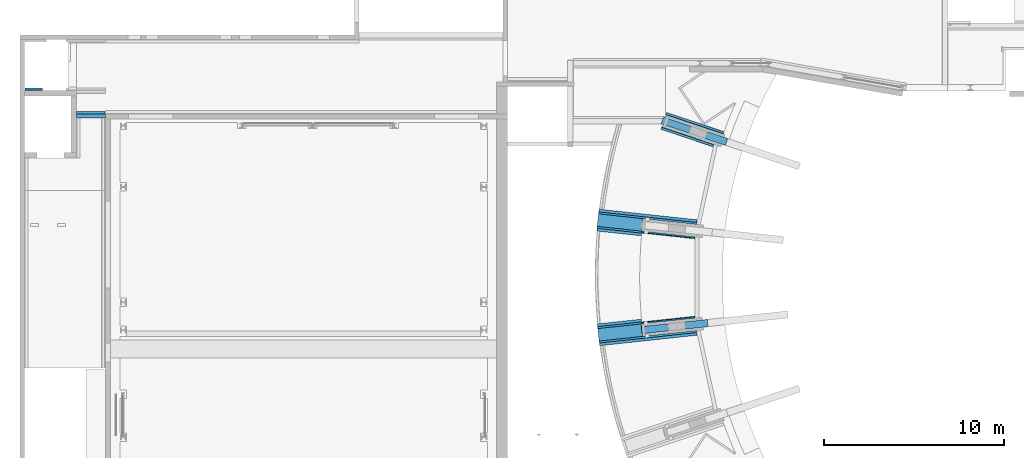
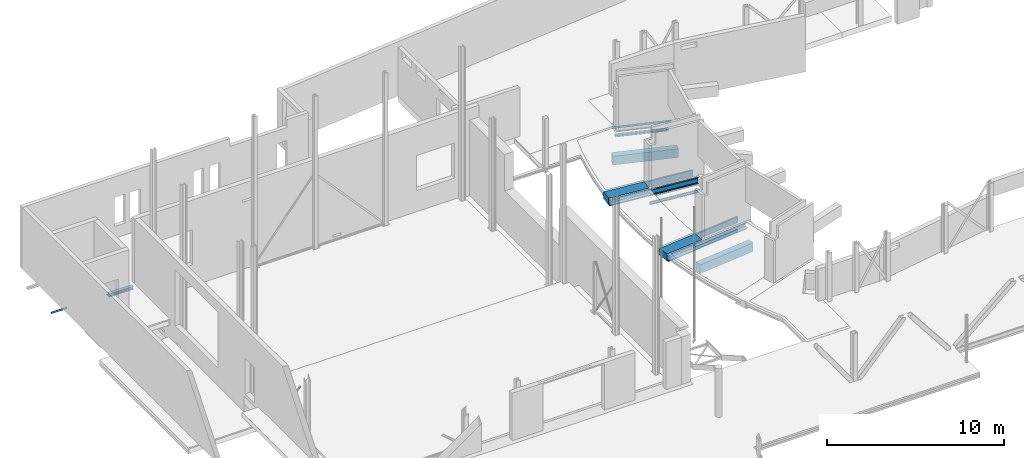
# One storey, part 17 of 37: 14 beams.
"""IFC2X3 building model written with IfcOpenShell, lengths in millimetres."""

from ifc_helpers import new_model, entity, si_unit, converted_unit, derived_unit, direction, frame, frame_2d, origin, origin_2d_with_axis, place, context, subcontext, project, spatial, polyline, circle_curve, parameter, trimmed, segment, composite_curve, rectangle, outline, extrude, source, transform, mapped, material, material_list, type_object, type_shapes, element, save


model = new_model("IFC2X3")

# Units and contexts
model_context = context("Model", 3, precision=0.01, world=origin(), true_north=direction((6.12303176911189e-17, 1.0)))
body_context = subcontext(model_context, "Body", "Model", "MODEL_VIEW")
ifc_project = project(units=[si_unit("LENGTHUNIT", "METRE", prefix="MILLI"), si_unit("AREAUNIT", "SQUARE_METRE", prefix="MILLI"), si_unit("VOLUMEUNIT", "CUBIC_METRE"), converted_unit("PLANEANGLEUNIT", "DEGREE", entity("IfcRatioMeasure", 0.0174532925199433), si_unit("PLANEANGLEUNIT", "RADIAN"), dimensions=[0, 0, 0, 0, 0, 0, 0]), si_unit("MASSUNIT", "GRAM", prefix="KILO"), derived_unit("MASSDENSITYUNIT", [(si_unit("MASSUNIT", "GRAM", prefix="KILO"), 1), (si_unit("LENGTHUNIT", "METRE"), -3)]), derived_unit("MOMENTOFINERTIAUNIT", [(si_unit("LENGTHUNIT", "METRE"), 4)]), si_unit("TIMEUNIT", "SECOND"), si_unit("FREQUENCYUNIT", "HERTZ"), si_unit("THERMODYNAMICTEMPERATUREUNIT", "DEGREE_CELSIUS"), derived_unit("THERMALTRANSMITTANCEUNIT", [(si_unit("MASSUNIT", "GRAM", prefix="KILO"), 1), (si_unit("THERMODYNAMICTEMPERATUREUNIT", "KELVIN"), -1), (si_unit("TIMEUNIT", "SECOND"), -3)]), derived_unit("VOLUMETRICFLOWRATEUNIT", [(si_unit("LENGTHUNIT", "METRE"), 3), (si_unit("TIMEUNIT", "SECOND"), -1)]), si_unit("ELECTRICCURRENTUNIT", "AMPERE"), si_unit("ELECTRICVOLTAGEUNIT", "VOLT"), si_unit("POWERUNIT", "WATT"), si_unit("FORCEUNIT", "NEWTON", prefix="KILO"), si_unit("ILLUMINANCEUNIT", "LUX"), si_unit("LUMINOUSFLUXUNIT", "LUMEN"), si_unit("LUMINOUSINTENSITYUNIT", "CANDELA"), derived_unit("USERDEFINED", [(si_unit("MASSUNIT", "GRAM", prefix="KILO"), -1), (si_unit("LENGTHUNIT", "METRE"), -2), (si_unit("TIMEUNIT", "SECOND"), 3), (si_unit("LUMINOUSFLUXUNIT", "LUMEN"), 1)]), derived_unit("LINEARVELOCITYUNIT", [(si_unit("LENGTHUNIT", "METRE"), 1), (si_unit("TIMEUNIT", "SECOND"), -1)]), si_unit("PRESSUREUNIT", "PASCAL"), derived_unit("USERDEFINED", [(si_unit("LENGTHUNIT", "METRE"), -2), (si_unit("MASSUNIT", "GRAM", prefix="KILO"), 1), (si_unit("TIMEUNIT", "SECOND"), -2)]), derived_unit("LINEARFORCEUNIT", [(si_unit("MASSUNIT", "GRAM", prefix="KILO"), 1), (si_unit("LENGTHUNIT", "METRE"), 1), (si_unit("TIMEUNIT", "SECOND"), -2), (si_unit("LENGTHUNIT", "METRE"), -1)]), derived_unit("PLANARFORCEUNIT", [(si_unit("MASSUNIT", "GRAM", prefix="KILO"), 1), (si_unit("LENGTHUNIT", "METRE"), 1), (si_unit("TIMEUNIT", "SECOND"), -2), (si_unit("LENGTHUNIT", "METRE"), -2)])], contexts=[model_context])

# Site, building, storey
site_placement = place(None, origin())
site = spatial("IfcSite", under=ifc_project, at=site_placement, Name="Theater aan de Parade", CompositionType="ELEMENT")
building_placement = place(site_placement, origin())
building = spatial("IfcBuilding", under=site, at=building_placement, Name="Theater aan de Parade", CompositionType="ELEMENT")
storey_placement = place(building_placement, frame((0.0, 0.0, 5020.0)))
storey = spatial("IfcBuildingStorey", under=building, at=storey_placement, Name="01 eerste verdieping", CompositionType="ELEMENT", Elevation=5020.0)

# Beams
ifc_material_1 = material(Name="00_PBT_MAT_beton t.p.g.")
beam_type_1 = type_object("IfcBeamType", Name="28_PBT_SF_betonbalk:400x800_bestaand", PredefinedType="NOTDEFINED")
beam_1_placement = place(storey_placement, frame((46085.6442524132, 41206.5055675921, 1000.0), z_axis=(0.0, 0.0, 1.0), x_axis=(0.948323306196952, -0.317305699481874, 0.0)))
element("IfcBeam", 1, at=beam_1_placement, inside=storey, type_object=beam_type_1, material=ifc_material_1, Name="28_PBT_SF_betonbalk:400x800_bestaand", ObjectType="28_PBT_SF_betonbalk:400x800_bestaand", context=body_context, shape_type="SweptSolid", body=[
    extrude(rectangle(XDim=600.000000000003, YDim=400.000000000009, at=frame_2d((2.8421709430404e-13, -4.10693701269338e-12), x_axis=(1.0, 0.0))), frame((0.0, 0.0, -3210.0), z_axis=(1.0, 0.0, 0.0), x_axis=(0.0, 0.0, -1.0)), (0.0, 0.0, 1.0), 3773.36802330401),
])
beam_2_placement = place(storey_placement, frame((44932.0334701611, 29521.8775051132, 1000.0), z_axis=(0.0, 0.0, 1.0), x_axis=(0.994276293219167, 0.106839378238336, 0.0)))
element("IfcBeam", 2, at=beam_2_placement, inside=storey, type_object=beam_type_1, material=ifc_material_1, Name="28_PBT_SF_betonbalk:400x800_bestaand", ObjectType="28_PBT_SF_betonbalk:400x800_bestaand", context=body_context, shape_type="SweptSolid", body=[
    extrude(rectangle(XDim=600.000000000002, YDim=400.000000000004, at=frame_2d((-2.55795384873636e-13, -2.1458390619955e-12), x_axis=(1.0, 0.0))), frame((0.0, 0.0, -3210.0), z_axis=(1.0, 0.0, 0.0), x_axis=(0.0, 0.0, -1.0)), (0.0, 0.0, 1.0), 3698.36802330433),
])
ifc_material_2 = material(Name="00_PBT_MAT_staal_S355")
beam_type_2 = type_object("IfcBeamType", Name="28_PBT_SF_staal_UNP-profiel_met_ingelaste_strip (void):S355_UNP400 + ingelaste strip_d=15", PredefinedType="BEAM", material=ifc_material_2)
shared_shape_1 = source(origin(), body_context, "Body", "SweptSolid", [
    extrude(outline(composite_curve([segment(polyline([(-200.0, -61.1666666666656), (200.0, -61.1666666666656)]), True, "CONTINUOUS"), segment(polyline([(200.0, -61.1666666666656), (200.0, 48.8333333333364)]), True, "CONTINUOUS"), segment(polyline([(200.0, 48.8333333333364), (191.0, 48.8333333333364)]), True, "CONTINUOUS"), segment(trimmed(circle_curve(frame_2d((191.0, 39.8333333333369), x_axis=(0.0, 1.0)), 8.99999999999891), [parameter(0.0)], [parameter(90.000000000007)], True, "PARAMETER"), True, "CONTINUOUS"), segment(polyline([(182.0, 39.8333333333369), (182.0, -29.1666666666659)]), True, "CONTINUOUS"), segment(trimmed(circle_curve(frame_2d((164.0, -29.1666666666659), x_axis=(1.0, 0.0)), 17.9999999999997), [parameter(269.999999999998)], [parameter(0.0)], True, "PARAMETER"), False, "CONTINUOUS"), segment(polyline([(164.0, -47.1666666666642), (-164.0, -47.1666666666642)]), True, "CONTINUOUS"), segment(trimmed(circle_curve(frame_2d((-164.0, -29.1666666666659), x_axis=(0.0, -1.0)), 17.9999999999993), [parameter(269.999999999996)], [parameter(0.0)], True, "PARAMETER"), False, "CONTINUOUS"), segment(polyline([(-182.0, -29.1666666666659), (-182.0, 39.8333333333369)]), True, "CONTINUOUS"), segment(trimmed(circle_curve(frame_2d((-191.0, 39.8333333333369), x_axis=(1.0, 0.0)), 8.9999999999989), [parameter(0.0)], [parameter(90.000000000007)], True, "PARAMETER"), True, "CONTINUOUS"), segment(polyline([(-191.0, 48.8333333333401), (-200.0, 48.8333333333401)]), True, "CONTINUOUS"), segment(polyline([(-200.0, 48.8333333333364), (-200.0, -61.1666666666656)]), True, "CONTINUOUS")], self_intersect=False)), frame((42570.2844427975, 28854.563531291, 4665.0), z_axis=(0.994276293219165, 0.106839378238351, 0.0), x_axis=(0.0, 0.0, 1.0)), (0.0, 0.0, 1.0), 5460.14331162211),
    extrude(rectangle(XDim=14.9999999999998, YDim=246.000000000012, at=frame_2d((0.0, -4.77484718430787e-12), x_axis=(1.0, 0.0))), frame((42578.3864289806, 28779.1642457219, 4632.5), z_axis=(0.994276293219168, 0.106839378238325, 0.0), x_axis=(0.0, 0.0, 1.0)), (0.0, 0.0, 1.0), 5460.14331162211),
])
type_shapes(beam_type_2, [shared_shape_1])
beam_3_placement = place(storey_placement, frame((0.0, 0.0, -5020.0)))
element("IfcBeam", 3, at=beam_3_placement, inside=storey, type_object=beam_type_2, material=ifc_material_2, Name="28_PBT_SF_staal_UNP-profiel_met_ingelaste_strip (void):S355_UNP400 + ingelaste strip_d=15", ObjectType="28_PBT_SF_staal_UNP-profiel_met_ingelaste_strip (void):S355_UNP400 + ingelaste strip_d=15", context=body_context, shape_type="MappedRepresentation", body=[
    mapped(shared_shape_1, transform((0.0, 0.0, 0.0), scale=1.0)),
])
beam_type_3 = type_object("IfcBeamType", Name="28_PBT_SF_staal_UNP-profiel_met_ingelaste_strip (void):S355_UNP400 + ingelaste strip_d=15", PredefinedType="BEAM", material=ifc_material_2)
shared_shape_2 = source(origin(), body_context, "Body", "SweptSolid", [
    extrude(outline(composite_curve([segment(polyline([(-200.0, -48.8333333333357), (-191.0, -48.8333333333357)]), True, "CONTINUOUS"), segment(trimmed(circle_curve(frame_2d((-191.0, -39.8333333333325), x_axis=(0.0, -1.0)), 8.9999999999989), [parameter(0.0)], [parameter(90.000000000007)], True, "PARAMETER"), True, "CONTINUOUS"), segment(polyline([(-182.0, -39.8333333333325), (-182.0, 29.1666666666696)]), True, "CONTINUOUS"), segment(trimmed(circle_curve(frame_2d((-164.0, 29.1666666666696), x_axis=(-1.0, 0.0)), 17.9999999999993), [parameter(269.999999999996)], [parameter(0.0)], True, "PARAMETER"), False, "CONTINUOUS"), segment(polyline([(-164.0, 47.1666666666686), (164.0, 47.1666666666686)]), True, "CONTINUOUS"), segment(trimmed(circle_curve(frame_2d((164.0, 29.1666666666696), x_axis=(0.0, 1.0)), 17.9999999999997), [parameter(269.999999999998)], [parameter(0.0)], True, "PARAMETER"), False, "CONTINUOUS"), segment(polyline([(182.0, 29.1666666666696), (182.0, -39.8333333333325)]), True, "CONTINUOUS"), segment(trimmed(circle_curve(frame_2d((191.0, -39.8333333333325), x_axis=(-1.0, 0.0)), 8.9999999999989), [parameter(0.0)], [parameter(90.000000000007)], True, "PARAMETER"), True, "CONTINUOUS"), segment(polyline([(191.0, -48.833333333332), (200.0, -48.833333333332)]), True, "CONTINUOUS"), segment(polyline([(200.0, -48.833333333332), (200.0, 61.16666666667)]), True, "CONTINUOUS"), segment(polyline([(200.0, 61.16666666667), (-200.0, 61.16666666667)]), True, "CONTINUOUS"), segment(polyline([(-200.0, 61.16666666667), (-200.0, -48.833333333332)]), True, "CONTINUOUS")], self_intersect=False)), frame((42479.6135848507, 29671.887770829, 4665.0), z_axis=(0.994276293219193, 0.106839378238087, 0.0), x_axis=(0.0, 0.0, 1.0)), (0.0, 0.0, 1.0), 5466.83184354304),
    extrude(rectangle(XDim=14.9999999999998, YDim=246.000000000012, at=frame_2d((0.0, 4.68958205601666e-13), x_axis=(1.0, 0.0))), frame((42471.5115986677, 29747.2870563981, 4632.5), z_axis=(0.994276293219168, 0.106839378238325, 0.0), x_axis=(0.0, 0.0, 1.0)), (0.0, 0.0, 1.0), 2466.83184354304),
])
type_shapes(beam_type_3, [shared_shape_2])
beam_4_placement = place(storey_placement, frame((0.0, 0.0, -5020.0)))
element("IfcBeam", 4, at=beam_4_placement, inside=storey, type_object=beam_type_3, material=ifc_material_2, Name="28_PBT_SF_staal_UNP-profiel_met_ingelaste_strip (void):S355_UNP400 + ingelaste strip_d=15", ObjectType="28_PBT_SF_staal_UNP-profiel_met_ingelaste_strip (void):S355_UNP400 + ingelaste strip_d=15", context=body_context, shape_type="MappedRepresentation", body=[
    mapped(shared_shape_2, transform((0.0, 0.0, 0.0), scale=1.0)),
])
beam_type_4 = type_object("IfcBeamType", Name="28_PBT_SF_staal_UNP-profiel_met_ingelaste_strip (void):S355_UNP400 + ingelaste strip_d=15", PredefinedType="BEAM", material=ifc_material_2)
shared_shape_3 = source(origin(), body_context, "Body", "SweptSolid", [
    extrude(outline(composite_curve([segment(polyline([(191.0, -48.8333333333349), (200.0, -48.8333333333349)]), True, "CONTINUOUS"), segment(polyline([(200.0, -48.8333333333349), (200.0, 61.1666666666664)]), True, "CONTINUOUS"), segment(polyline([(200.0, 61.1666666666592), (-200.0, 61.1666666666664)]), True, "CONTINUOUS"), segment(polyline([(-200.0, 61.1666666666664), (-200.0, -48.8333333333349)]), True, "CONTINUOUS"), segment(polyline([(-200.0, -48.8333333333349), (-191.0, -48.8333333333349)]), True, "CONTINUOUS"), segment(trimmed(circle_curve(frame_2d((-191.0, -39.8333333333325), x_axis=(0.0, -1.0)), 8.99999999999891), [parameter(0.0)], [parameter(90.000000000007)], True, "PARAMETER"), True, "CONTINUOUS"), segment(polyline([(-182.0, -39.8333333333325), (-182.0, 29.1666666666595)]), True, "CONTINUOUS"), segment(trimmed(circle_curve(frame_2d((-164.0, 29.1666666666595), x_axis=(-1.0, 0.0)), 17.9999999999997), [parameter(269.999999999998)], [parameter(0.0)], True, "PARAMETER"), False, "CONTINUOUS"), segment(polyline([(-164.0, 47.1666666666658), (164.0, 47.1666666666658)]), True, "CONTINUOUS"), segment(trimmed(circle_curve(frame_2d((164.0, 29.1666666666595), x_axis=(0.0, 1.0)), 17.9999999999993), [parameter(269.999999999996)], [parameter(0.0)], True, "PARAMETER"), False, "CONTINUOUS"), segment(polyline([(182.0, 29.1666666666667), (182.0, -39.8333333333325)]), True, "CONTINUOUS"), segment(trimmed(circle_curve(frame_2d((191.0, -39.8333333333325), x_axis=(-1.0, 0.0)), 8.9999999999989), [parameter(0.0)], [parameter(90.000000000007)], True, "PARAMETER"), True, "CONTINUOUS")], self_intersect=False)), frame((42451.1654944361, 35244.3351680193, 4665.0), z_axis=(0.994276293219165, -0.106839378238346, 0.0), x_axis=(0.0, 0.0, -1.0)), (0.0, 0.0, 1.0), 5495.44369983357),
    extrude(rectangle(XDim=14.9999999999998, YDim=246.000000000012, at=frame_2d((0.0, -8.61177795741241e-12), x_axis=(1.0, 0.0))), frame((42443.063508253, 35168.9358824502, 4632.5), z_axis=(0.994276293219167, -0.106839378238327, 0.0), x_axis=(0.0, 0.0, -1.0)), (0.0, 0.0, 1.0), 2495.44369983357),
])
type_shapes(beam_type_4, [shared_shape_3])
beam_5_placement = place(storey_placement, frame((0.0, 0.0, -5020.0)))
element("IfcBeam", 5, at=beam_5_placement, inside=storey, type_object=beam_type_4, material=ifc_material_2, Name="28_PBT_SF_staal_UNP-profiel_met_ingelaste_strip (void):S355_UNP400 + ingelaste strip_d=15", ObjectType="28_PBT_SF_staal_UNP-profiel_met_ingelaste_strip (void):S355_UNP400 + ingelaste strip_d=15", context=body_context, shape_type="MappedRepresentation", body=[
    mapped(shared_shape_3, transform((0.0, 0.0, 0.0), scale=1.0)),
])
beam_type_5 = type_object("IfcBeamType", Name="28_PBT_SF_staal_UNP-profiel_met_ingelaste_strip (void):S355_UNP400 + ingelaste strip_d=15", PredefinedType="BEAM", material=ifc_material_2)
shared_shape_4 = source(origin(), body_context, "Body", "SweptSolid", [
    extrude(outline(composite_curve([segment(polyline([(-200.0, -61.1666666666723), (200.0, -61.1666666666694)]), True, "CONTINUOUS"), segment(polyline([(200.0, -61.1666666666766), (200.0, 48.8333333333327)]), True, "CONTINUOUS"), segment(polyline([(200.0, 48.8333333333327), (191.0, 48.8333333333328)]), True, "CONTINUOUS"), segment(trimmed(circle_curve(frame_2d((191.0, 39.8333333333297), x_axis=(0.0, 1.0)), 8.9999999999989), [parameter(0.0)], [parameter(90.000000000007)], True, "PARAMETER"), True, "CONTINUOUS"), segment(polyline([(182.0, 39.8333333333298), (182.0, -29.1666666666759)]), True, "CONTINUOUS"), segment(trimmed(circle_curve(frame_2d((164.0, -29.1666666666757), x_axis=(1.0, 0.0)), 17.9999999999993), [parameter(269.999999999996)], [parameter(0.0)], True, "PARAMETER"), False, "CONTINUOUS"), segment(polyline([(164.0, -47.1666666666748), (-164.0, -47.1666666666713)]), True, "CONTINUOUS"), segment(trimmed(circle_curve(frame_2d((-164.0, -29.1666666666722), x_axis=(0.0, -1.0)), 17.9999999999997), [parameter(269.999999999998)], [parameter(0.0)], True, "PARAMETER"), False, "CONTINUOUS"), segment(polyline([(-182.0, -29.166666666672), (-182.0, 39.8333333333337)]), True, "CONTINUOUS"), segment(trimmed(circle_curve(frame_2d((-191.0, 39.8333333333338), x_axis=(1.0, 0.0)), 8.99999999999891), [parameter(0.0)], [parameter(90.000000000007)], True, "PARAMETER"), True, "CONTINUOUS"), segment(polyline([(-191.0, 48.8333333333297), (-200.0, 48.833333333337)]), True, "CONTINUOUS"), segment(polyline([(-200.0, 48.8333333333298), (-200.0, -61.1666666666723)]), True, "CONTINUOUS")], self_intersect=False)), frame((42537.5730233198, 36062.1175210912, 4665.0), z_axis=(0.994276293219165, -0.106839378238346, 0.0), x_axis=(0.0, 0.0, -1.0)), (0.0, 0.0, 1.0), 5497.98068978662),
    extrude(rectangle(XDim=14.9999999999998, YDim=246.000000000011, at=frame_2d((0.0, 2.62900812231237e-12), x_axis=(1.0, 0.0))), frame((42545.6750095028, 36137.5168066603, 4632.5), z_axis=(0.994276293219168, -0.106839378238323, 0.0), x_axis=(0.0, 0.0, -1.0)), (0.0, 0.0, 1.0), 5497.98068978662),
])
type_shapes(beam_type_5, [shared_shape_4])
beam_6_placement = place(storey_placement, frame((0.0, 0.0, -5020.0)))
element("IfcBeam", 6, at=beam_6_placement, inside=storey, type_object=beam_type_5, material=ifc_material_2, Name="28_PBT_SF_staal_UNP-profiel_met_ingelaste_strip (void):S355_UNP400 + ingelaste strip_d=15", ObjectType="28_PBT_SF_staal_UNP-profiel_met_ingelaste_strip (void):S355_UNP400 + ingelaste strip_d=15", context=body_context, shape_type="MappedRepresentation", body=[
    mapped(shared_shape_4, transform((0.0, 0.0, 0.0), scale=1.0)),
])
beam_type_6 = type_object("IfcBeamType", Name="28_PBT_SF_staal_L-profiel:S355_L150x150x15", PredefinedType="NOTDEFINED")
beam_7_placement = place(storey_placement, frame((46032.2260133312, 40810.4907424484, 0.0), z_axis=(0.0, 0.0, 1.0), x_axis=(0.948323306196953, -0.317305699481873, 0.0)))
element("IfcBeam", 7, at=beam_7_placement, inside=storey, type_object=beam_type_6, material=ifc_material_2, Name="28_PBT_SF_staal_L-profiel:S355_L150x150x15", ObjectType="28_PBT_SF_staal_L-profiel:S355_L150x150x15", context=body_context, shape_type="SweptSolid", body=[
    extrude(outline(composite_curve([segment(polyline([(49.6666666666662, -93.3333333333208), (56.6666666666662, -93.3333333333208)]), True, "CONTINUOUS"), segment(polyline([(56.6666666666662, -93.3333333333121), (56.6666666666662, 56.6666666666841)]), True, "CONTINUOUS"), segment(polyline([(56.6666666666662, 56.6666666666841), (-93.3333333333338, 56.6666666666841)]), True, "CONTINUOUS"), segment(polyline([(-93.3333333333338, 56.6666666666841), (-93.3333333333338, 49.666666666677)]), True, "CONTINUOUS"), segment(trimmed(circle_curve(frame_2d((-85.333333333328, 49.666666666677), x_axis=(-1.0, 0.0)), 8.00000000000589), [parameter(0.0)], [parameter(89.9999999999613)], True, "PARAMETER"), True, "CONTINUOUS"), segment(polyline([(-85.3333333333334, 41.6666666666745), (25.6666666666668, 41.6666666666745)]), True, "CONTINUOUS"), segment(trimmed(circle_curve(frame_2d((25.6666666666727, 25.6666666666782), x_axis=(0.0, 1.0)), 15.9999999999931), [parameter(269.999999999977)], [parameter(0.0)], True, "PARAMETER"), False, "CONTINUOUS"), segment(polyline([(41.6666666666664, 25.6666666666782), (41.6666666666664, -85.3333333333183)]), True, "CONTINUOUS"), segment(trimmed(circle_curve(frame_2d((49.6666666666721, -85.3333333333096), x_axis=(-1.0, 0.0)), 8.00000000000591), [parameter(0.0)], [parameter(89.9999999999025)], True, "PARAMETER"), True, "CONTINUOUS")], self_intersect=False)), frame((0.0, -14.1666666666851, -338.333333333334), z_axis=(1.0, 0.0, 0.0), x_axis=(0.0, 0.0, -1.0)), (0.0, 0.0, 1.0), 3079.13069914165),
])
beam_8_placement = place(storey_placement, frame((46281.3109874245, 41554.924537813, 0.0), z_axis=(0.0, 0.0, 1.0), x_axis=(0.948323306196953, -0.317305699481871, 0.0)))
element("IfcBeam", 8, at=beam_8_placement, inside=storey, type_object=beam_type_6, material=ifc_material_2, Name="28_PBT_SF_staal_L-profiel:S355_L150x150x15", ObjectType="28_PBT_SF_staal_L-profiel:S355_L150x150x15", context=body_context, shape_type="SweptSolid", body=[
    extrude(outline(composite_curve([segment(polyline([(-93.3333333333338, -56.6666666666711), (56.6666666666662, -56.6666666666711)]), True, "CONTINUOUS"), segment(polyline([(56.6666666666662, -56.6666666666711), (56.6666666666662, 93.3333333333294)]), True, "CONTINUOUS"), segment(polyline([(56.6666666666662, 93.3333333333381), (49.6666666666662, 93.3333333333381)]), True, "CONTINUOUS"), segment(trimmed(circle_curve(frame_2d((49.6666666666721, 85.3333333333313), x_axis=(0.0, 1.0)), 8.00000000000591), [parameter(0.0)], [parameter(89.9999999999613)], True, "PARAMETER"), True, "CONTINUOUS"), segment(polyline([(41.6666666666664, 85.3333333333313), (41.6666666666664, -25.6666666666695)]), True, "CONTINUOUS"), segment(trimmed(circle_curve(frame_2d((25.6666666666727, -25.6666666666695), x_axis=(1.0, 0.0)), 15.9999999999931), [parameter(269.999999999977)], [parameter(0.0)], True, "PARAMETER"), False, "CONTINUOUS"), segment(polyline([(25.6666666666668, -41.6666666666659), (-85.3333333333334, -41.6666666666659)]), True, "CONTINUOUS"), segment(trimmed(circle_curve(frame_2d((-85.333333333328, -49.666666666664), x_axis=(0.0, 1.0)), 8.00000000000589), [parameter(0.0)], [parameter(89.9999999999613)], True, "PARAMETER"), True, "CONTINUOUS"), segment(polyline([(-93.3333333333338, -49.666666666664), (-93.3333333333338, -56.6666666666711)]), True, "CONTINUOUS")], self_intersect=False)), frame((0.0, 14.1666666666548, -338.333333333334), z_axis=(1.0, 0.0, 0.0), x_axis=(0.0, 0.0, -1.0)), (0.0, 0.0, 1.0), 3379.53987930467),
])
beam_9_placement = place(storey_placement, frame((10574.1125537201, 42912.5000000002, 0.0)))
element("IfcBeam", 9, at=beam_9_placement, inside=storey, type_object=beam_type_6, material=ifc_material_2, Name="28_PBT_SF_staal_L-profiel:S355_L150x150x15", ObjectType="28_PBT_SF_staal_L-profiel:S355_L150x150x15", context=body_context, shape_type="SweptSolid", body=[
    extrude(outline(composite_curve([segment(polyline([(-93.3333333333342, -56.6666666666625), (56.6666666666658, -56.6666666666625)]), True, "CONTINUOUS"), segment(polyline([(56.6666666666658, -56.6666666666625), (56.6666666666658, 93.3333333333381)]), True, "CONTINUOUS"), segment(polyline([(56.6666666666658, 93.3333333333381), (49.6666666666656, 93.3333333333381)]), True, "CONTINUOUS"), segment(trimmed(circle_curve(frame_2d((49.6666666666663, 85.3333333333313), x_axis=(0.0, 1.0)), 7.99999999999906), [parameter(0.0)], [parameter(90.0000000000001)], True, "PARAMETER"), True, "CONTINUOUS"), segment(polyline([(41.6666666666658, 85.3333333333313), (41.6666666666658, -25.6666666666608)]), True, "CONTINUOUS"), segment(trimmed(circle_curve(frame_2d((25.6666666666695, -25.6666666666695), x_axis=(1.0, 0.0)), 15.9999999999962), [parameter(269.999999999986)], [parameter(0.0)], True, "PARAMETER"), False, "CONTINUOUS"), segment(polyline([(25.6666666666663, -41.6666666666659), (-85.3333333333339, -41.6666666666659)]), True, "CONTINUOUS"), segment(trimmed(circle_curve(frame_2d((-85.3333333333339, -49.666666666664), x_axis=(0.0, 1.0)), 7.99999999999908), [parameter(0.0)], [parameter(90.0000000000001)], True, "PARAMETER"), True, "CONTINUOUS"), segment(polyline([(-93.3333333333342, -49.666666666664), (-93.3333333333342, -56.6666666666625)]), True, "CONTINUOUS")], self_intersect=False)), frame((0.0, 14.1666666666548, -1398.33333333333), z_axis=(1.0, 0.0, 0.0), x_axis=(0.0, 0.0, -1.0)), (0.0, 0.0, 1.0), 985.223015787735),
])
ifc_material_3 = material(Name="00_PBT_MAT_Lucht")
ifc_material_list = material_list([ifc_material_2, ifc_material_3])
beam_type_7 = type_object("IfcBeamType", Name="28_PBT_SF_staal_H-profiel_met_ondergelaste_strip (void):S355_HE220A + ondergelaste strip d=12", PredefinedType="BEAM", material=ifc_material_list)
shared_shape_5 = source(origin(), body_context, "Body", "SweptSolid", [
    extrude(outline(composite_curve([segment(polyline([(94.0, -110.0), (105.0, -110.0)]), True, "CONTINUOUS"), segment(polyline([(105.0, -110.0), (105.0, 110.0)]), True, "CONTINUOUS"), segment(polyline([(105.0, 110.0), (94.0, 110.0)]), True, "CONTINUOUS"), segment(polyline([(94.0, 110.0), (94.0, 21.499999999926)]), True, "CONTINUOUS"), segment(trimmed(circle_curve(frame_2d((76.0, 21.4999999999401), x_axis=(1.0, 0.0)), 17.9999999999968), [parameter(269.99999999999)], [parameter(0.0)], True, "PARAMETER"), False, "CONTINUOUS"), segment(polyline([(76.0, 3.49999999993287), (-76.0, 3.50000000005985)]), True, "CONTINUOUS"), segment(trimmed(circle_curve(frame_2d((-76.0, 21.5000000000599), x_axis=(0.0, -1.0)), 17.9999999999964), [parameter(269.999999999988)], [parameter(0.0)], True, "PARAMETER"), False, "CONTINUOUS"), segment(polyline([(-94.0, 21.5000000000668), (-94.0, 110.0)]), True, "CONTINUOUS"), segment(polyline([(-94.0, 110.0), (-105.0, 110.0)]), True, "CONTINUOUS"), segment(polyline([(-105.0, 110.0), (-105.0, -110.0)]), True, "CONTINUOUS"), segment(polyline([(-105.0, -110.0), (-94.0, -110.0)]), True, "CONTINUOUS"), segment(polyline([(-94.0, -110.0), (-94.0, -21.4999999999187)]), True, "CONTINUOUS"), segment(trimmed(circle_curve(frame_2d((-76.0, -21.4999999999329), x_axis=(-1.0, 0.0)), 17.9999999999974), [parameter(269.99999999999)], [parameter(0.0)], True, "PARAMETER"), False, "CONTINUOUS"), segment(polyline([(-76.0, -3.49999999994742), (76.0, -3.50000000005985)]), True, "CONTINUOUS"), segment(trimmed(circle_curve(frame_2d((76.0, -21.5000000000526), x_axis=(0.0, 1.0)), 17.9999999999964), [parameter(269.999999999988)], [parameter(0.0)], True, "PARAMETER"), False, "CONTINUOUS"), segment(polyline([(94.0, -21.5000000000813), (94.0, -110.0)]), True, "CONTINUOUS")], self_intersect=False)), frame((13454.8570025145, 41463.3083270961, 4720.0), z_axis=(1.0, 0.0, 0.0), x_axis=(0.0, 0.0, -1.0)), (0.0, 0.0, 1.0), 1598.99999999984),
    extrude(rectangle(XDim=12.0, YDim=340.000000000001, at=frame_2d((-2.70450328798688e-13, 4.33431068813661e-12), x_axis=(1.0, 0.0))), frame((13455.8570025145, 41528.3083270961, 4609.0), z_axis=(1.0, 0.0, 0.0), x_axis=(0.0, 0.0, -1.0)), (0.0, 0.0, 1.0), 1596.99999999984),
])
type_shapes(beam_type_7, [shared_shape_5])
beam_10_placement = place(storey_placement, frame((0.0, 0.0, -5020.0)))
element("IfcBeam", 10, at=beam_10_placement, inside=storey, type_object=beam_type_7, material=ifc_material_2, Name="28_PBT_SF_staal_H-profiel_met_ondergelaste_strip (void):S355_HE220A + ondergelaste strip d=12", ObjectType="28_PBT_SF_staal_H-profiel_met_ondergelaste_strip (void):S355_HE220A + ondergelaste strip d=12", context=body_context, shape_type="MappedRepresentation", body=[
    mapped(shared_shape_5, transform((0.0, 0.0, 0.0), scale=1.0)),
])
beam_type_8 = type_object("IfcBeamType", Name="28_PBT_SF_staal_UNP-profiel:S355_UNP200", PredefinedType="NOTDEFINED")
beam_11_placement = place(storey_placement, frame((44941.891938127, 29895.1673794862, 0.0), z_axis=(0.0, 0.0, 1.0), x_axis=(0.994276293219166, 0.106839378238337, 0.0)))
element("IfcBeam", 11, at=beam_11_placement, inside=storey, type_object=beam_type_8, material=ifc_material_2, Name="28_PBT_SF_staal_UNP-profiel:S355_UNP200", ObjectType="28_PBT_SF_staal_UNP-profiel:S355_UNP200", context=body_context, shape_type="SweptSolid", body=[
    extrude(outline(composite_curve([segment(polyline([(-100.0, -41.1769002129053), (100.0, -41.1769002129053)]), True, "CONTINUOUS"), segment(polyline([(100.0, -41.1769002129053), (100.0, 33.823099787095)]), True, "CONTINUOUS"), segment(polyline([(100.0, 33.823099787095), (97.0391693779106, 33.823099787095)]), True, "CONTINUOUS"), segment(trimmed(circle_curve(frame_2d((97.0391693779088, 27.8230997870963), x_axis=(0.0, 1.0)), 5.99999999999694), [parameter(0.0)], [parameter(85.4260787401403)], True, "PARAMETER"), True, "CONTINUOUS"), segment(polyline([(91.0582777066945, 28.3015711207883), (87.0266343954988, -22.0939702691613)]), True, "CONTINUOUS"), segment(trimmed(circle_curve(frame_2d((75.5632586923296, -21.1769002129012), x_axis=(0.996815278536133, -0.0797452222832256)), 11.5000000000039), [parameter(274.573921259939)], [parameter(0.0)], True, "PARAMETER"), False, "CONTINUOUS"), segment(polyline([(75.5632586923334, -32.6769002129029), (-75.5632586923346, -32.6769002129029)]), True, "CONTINUOUS"), segment(trimmed(circle_curve(frame_2d((-75.5632586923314, -21.1769002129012), x_axis=(0.0, -1.0)), 11.5000000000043), [parameter(274.573921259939)], [parameter(0.0)], True, "PARAMETER"), False, "CONTINUOUS"), segment(polyline([(-87.0266343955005, -22.0939702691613), (-91.0582777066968, 28.3015711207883)]), True, "CONTINUOUS"), segment(trimmed(circle_curve(frame_2d((-97.0391693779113, 27.8230997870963), x_axis=(0.996815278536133, 0.0797452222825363)), 5.99999999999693), [parameter(0.0)], [parameter(85.4260787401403)], True, "PARAMETER"), True, "CONTINUOUS"), segment(polyline([(-97.0391693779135, 33.823099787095), (-100.0, 33.823099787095)]), True, "CONTINUOUS"), segment(polyline([(-100.0, 33.823099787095), (-100.0, -41.1769002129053)]), True, "CONTINUOUS")], self_intersect=False)), frame((0.0, 21.0769002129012, -1110.0), z_axis=(1.0, 0.0, 0.0), x_axis=(0.0, 0.0, -1.0)), (0.0, 0.0, 1.0), 2994.07185042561),
])
beam_12_placement = place(storey_placement, frame((44948.6047117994, 35017.2773692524, 0.0), z_axis=(0.0, 0.0, 1.0), x_axis=(0.994276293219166, -0.106839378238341, 0.0)))
element("IfcBeam", 12, at=beam_12_placement, inside=storey, type_object=beam_type_8, material=ifc_material_2, Name="28_PBT_SF_staal_UNP-profiel:S355_UNP200", ObjectType="28_PBT_SF_staal_UNP-profiel:S355_UNP200", context=body_context, shape_type="SweptSolid", body=[
    extrude(outline(composite_curve([segment(polyline([(97.0391693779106, -33.823099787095), (100.0, -33.823099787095)]), True, "CONTINUOUS"), segment(polyline([(100.0, -33.823099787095), (100.0, 41.1769002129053)]), True, "CONTINUOUS"), segment(polyline([(100.0, 41.1769002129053), (-100.0, 41.1769002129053)]), True, "CONTINUOUS"), segment(polyline([(-100.0, 41.1769002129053), (-100.0, -33.823099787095)]), True, "CONTINUOUS"), segment(polyline([(-100.0, -33.823099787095), (-97.0391693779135, -33.823099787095)]), True, "CONTINUOUS"), segment(trimmed(circle_curve(frame_2d((-97.0391693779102, -27.8230997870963), x_axis=(0.0, -1.0)), 5.99999999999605), [parameter(0.0)], [parameter(85.4260787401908)], True, "PARAMETER"), True, "CONTINUOUS"), segment(polyline([(-91.0582777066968, -28.3015711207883), (-87.0266343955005, 22.0939702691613)]), True, "CONTINUOUS"), segment(trimmed(circle_curve(frame_2d((-75.5632586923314, 21.1769002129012), x_axis=(-0.996815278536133, 0.0797452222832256)), 11.5000000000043), [parameter(274.573921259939)], [parameter(0.0)], True, "PARAMETER"), False, "CONTINUOUS"), segment(polyline([(-75.5632586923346, 32.6769002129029), (75.5632586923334, 32.6769002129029)]), True, "CONTINUOUS"), segment(trimmed(circle_curve(frame_2d((75.5632586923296, 21.1769002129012), x_axis=(0.0, 1.0)), 11.5000000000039), [parameter(274.573921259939)], [parameter(0.0)], True, "PARAMETER"), False, "CONTINUOUS"), segment(polyline([(87.0266343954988, 22.0939702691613), (91.0582777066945, -28.3015711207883)]), True, "CONTINUOUS"), segment(trimmed(circle_curve(frame_2d((97.0391693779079, -27.8230997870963), x_axis=(-0.996815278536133, -0.0797452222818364)), 5.99999999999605), [parameter(0.0)], [parameter(85.4260787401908)], True, "PARAMETER"), True, "CONTINUOUS")], self_intersect=False)), frame((0.0, -21.0769002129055, -1110.0), z_axis=(1.0, 0.0, 0.0), x_axis=(0.0, 0.0, -1.0)), (0.0, 0.0, 1.0), 2987.32043362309),
])
ifc_material_4 = material(Name="00_PBT_MAT_beton t.p.g._C30/37")
beam_type_9 = type_object("IfcBeamType", Name="28_PBT_SF_betonbalk:C30/37_700x475", PredefinedType="NOTDEFINED")
beam_13_placement = place(storey_placement, frame((42524.1029782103, 29263.1347407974, 0.0), z_axis=(0.0, 0.0, 1.0), x_axis=(0.994276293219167, 0.106839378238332, 0.0)))
element("IfcBeam", 13, at=beam_13_placement, inside=storey, type_object=beam_type_9, material=ifc_material_4, Name="28_PBT_SF_betonbalk:C30/37_700x475", ObjectType="28_PBT_SF_betonbalk:C30/37_700x475", context=body_context, shape_type="SweptSolid", body=[
    extrude(rectangle(XDim=475.0, YDim=700.000000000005, at=frame_2d((0.0, -4.29167812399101e-12), x_axis=(1.0, 0.0))), frame((0.0, 0.0, -317.500000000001), z_axis=(1.0, 0.0, 0.0), x_axis=(0.0, 0.0, -1.0)), (0.0, 0.0, 1.0), 2452.67859637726),
])
beam_14_placement = place(storey_placement, frame((42493.5232604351, 35653.3172508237, 0.0), z_axis=(0.0, 0.0, 1.0), x_axis=(0.994276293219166, -0.106839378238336, 0.0)))
element("IfcBeam", 14, at=beam_14_placement, inside=storey, type_object=beam_type_9, material=ifc_material_4, Name="28_PBT_SF_betonbalk:C30/37_700x475", ObjectType="28_PBT_SF_betonbalk:C30/37_700x475", context=body_context, shape_type="SweptSolid", body=[
    extrude(rectangle(XDim=475.0, YDim=700.000000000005, at=origin_2d_with_axis()), frame((0.0, 0.0, -317.500000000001), z_axis=(1.0, 0.0, 0.0), x_axis=(0.0, 0.0, -1.0)), (0.0, 0.0, 1.0), 2494.08458406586),
])

save(model, "model.ifc")
